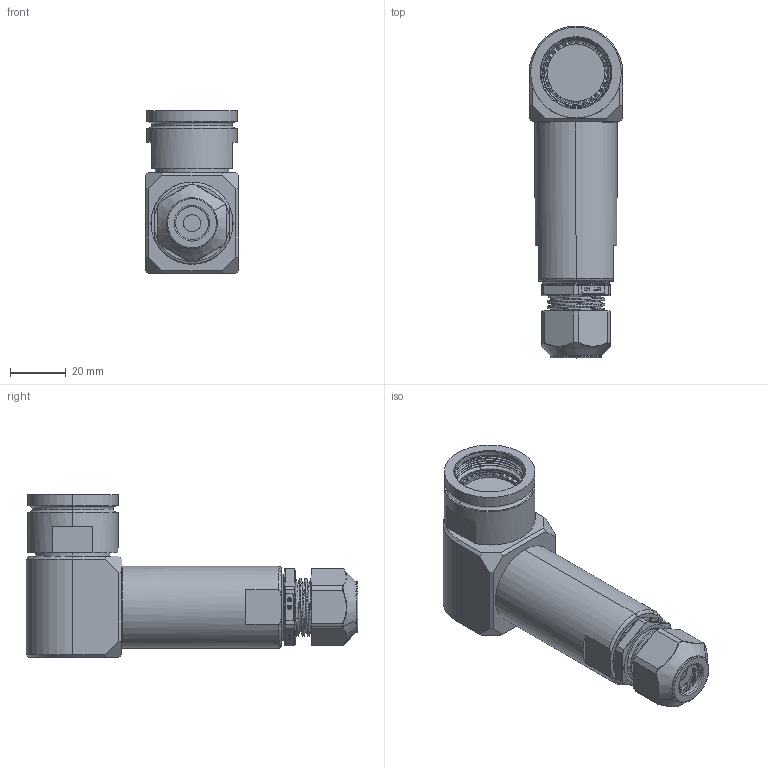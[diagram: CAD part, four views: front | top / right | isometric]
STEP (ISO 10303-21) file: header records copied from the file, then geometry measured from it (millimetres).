
FILE_DESCRIPTION (( 'STEP AP214' ), '1' );
FILE_NAME ('Q38EBSHELL-90X-17-XXXX-GL.STEP', '2025-09-24T15:14:34', ( '' ), ( '' ), 'SwSTEP 2.0', 'SolidWorks 2024', '' );
FILE_SCHEMA (( 'AUTOMOTIVE_DESIGN' ));
Length unit declared in the file: millimetre
Products named in the file (1): Q38EBSHELL-90X-17-XXXX-GL
Bounding box: 33.6 x 119.28 x 58.57 mm (x, y, z)
Surface area: 27846.7 mm2 (no closed solid volume)
Topology: 0 solids, 10 shells, 1367 faces, 3518 edges, 2230 vertices
Faces by surface type: plane 666, cylinder 257, bspline 156, torus 121, cone 113, sphere 54
Entity records: 63864 total; most frequent: CARTESIAN_POINT 37130, ORIENTED_EDGE 7021, EDGE_CURVE 3517, DIRECTION 3316, B_SPLINE_CURVE_WITH_KNOTS 2666, VERTEX_POINT 2230, AXIS2_PLACEMENT_3D 1500, EDGE_LOOP 1436
